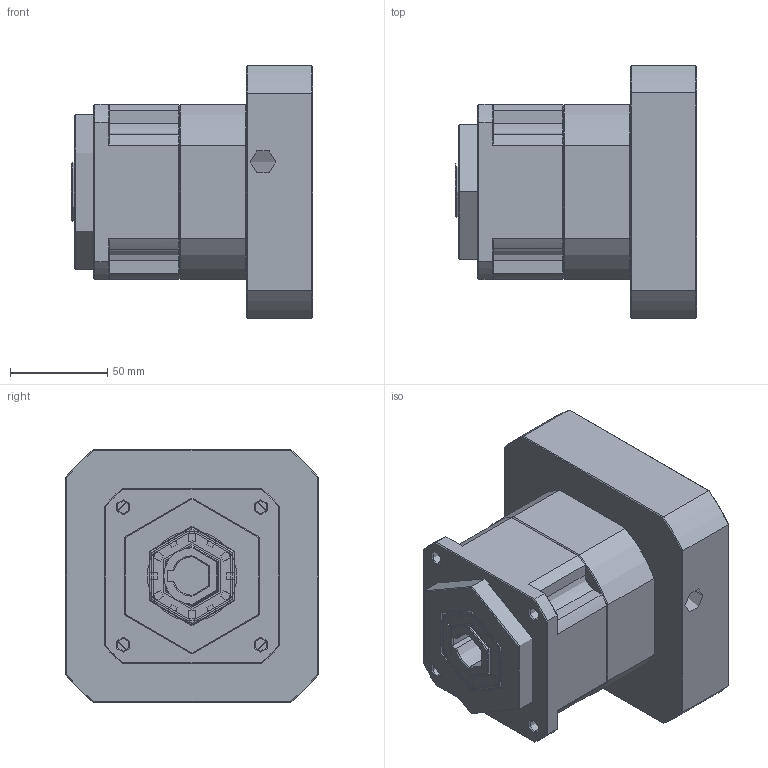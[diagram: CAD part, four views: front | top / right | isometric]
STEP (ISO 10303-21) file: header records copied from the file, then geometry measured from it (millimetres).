
FILE_DESCRIPTION (( 'STEP AP214' ), '1' );
FILE_NAME ('ZPB090-K20-L1-P1-22-110-130-M8.step', '2024-06-07T18:24:36', ( 'Windows 蚚誧' ), ( 'Organization' ), 'SwSTEP 2.0', 'SolidWorks 2016', '' );
FILE_SCHEMA (( 'AUTOMOTIVE_DESIGN' ));
Length unit declared in the file: millimetre
Products named in the file (1): ZPB090-K20-L1-P1-22-110-130-M8
Bounding box: 124 x 130 x 130 mm (x, y, z)
Topology: 0 solids, 35 shells, 1792 faces, 4780 edges, 3056 vertices
Faces by surface type: plane 926, bspline 372, cone 269, cylinder 213, torus 12
Entity records: 87244 total; most frequent: CARTESIAN_POINT 40733, ORIENTED_EDGE 9541, DIRECTION 7387, EDGE_CURVE 4781, VECTOR 3169, LINE 3169, VERTEX_POINT 3056, AXIS2_PLACEMENT_3D 2109
